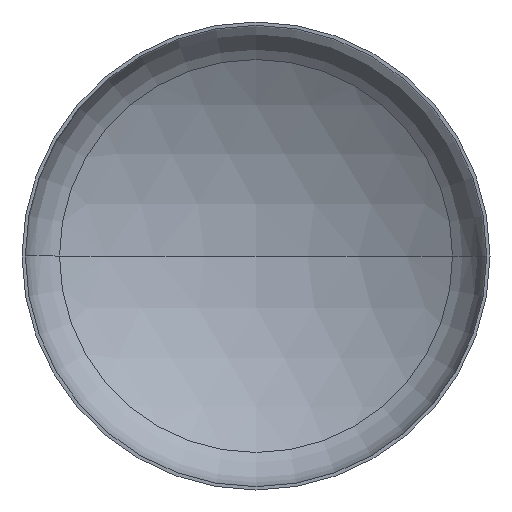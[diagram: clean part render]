
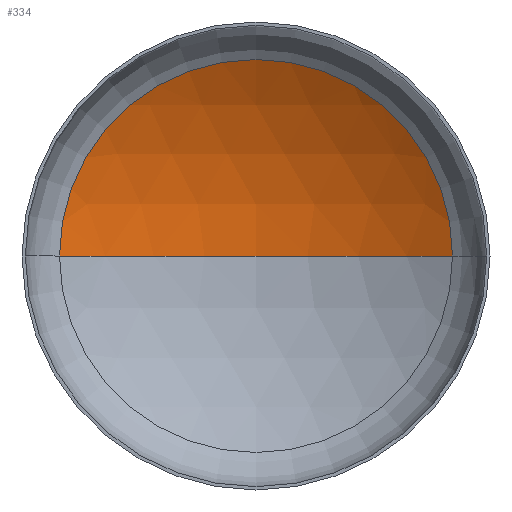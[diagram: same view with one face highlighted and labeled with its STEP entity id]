
A CAD part, front view. The second image highlights one B-rep face of the part: STEP entity #334.
In plain terms, the highlighted spherical face has radius 2240 mm.
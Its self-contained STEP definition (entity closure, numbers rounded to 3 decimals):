
#1 = SPHERICAL_SURFACE ( 'NONE', #173, 2240. ) ;
#15 = EDGE_LOOP ( 'NONE', ( #43, #80, #30 ) ) ;
#28 = VERTEX_POINT ( 'NONE', #267 ) ;
#30 = ORIENTED_EDGE ( 'NONE', *, *, #122, .T. ) ;
#43 = ORIENTED_EDGE ( 'NONE', *, *, #164, .F. ) ;
#46 = AXIS2_PLACEMENT_3D ( 'NONE', #293, #279, #276 ) ;
#63 = VERTEX_POINT ( 'NONE', #202 ) ;
#79 = VERTEX_POINT ( 'NONE', #317 ) ;
#80 = ORIENTED_EDGE ( 'NONE', *, *, #144, .T. ) ;
#86 = AXIS2_PLACEMENT_3D ( 'NONE', #327, #387, #340 ) ;
#109 = CIRCLE ( 'NONE', #86, 1175.691 ) ;
#122 = EDGE_CURVE ( 'NONE', #28, #79, #109, .T. ) ;
#144 = EDGE_CURVE ( 'NONE', #63, #28, #393, .T. ) ;
#152 = CARTESIAN_POINT ( 'NONE',  ( 0., -1480.649, 0. ) ) ;
#156 = DIRECTION ( 'NONE',  ( 0., 0., 1. ) ) ;
#160 = AXIS2_PLACEMENT_3D ( 'NONE', #152, #156, #290 ) ;
#164 = EDGE_CURVE ( 'NONE', #63, #79, #333, .T. ) ;
#173 = AXIS2_PLACEMENT_3D ( 'NONE', #239, #261, #210 ) ;
#202 = CARTESIAN_POINT ( 'NONE',  ( 0., 759.351, 0. ) ) ;
#210 = DIRECTION ( 'NONE',  ( -1., 0., 0. ) ) ;
#239 = CARTESIAN_POINT ( 'NONE',  ( 0., -1480.649, 0. ) ) ;
#261 = DIRECTION ( 'NONE',  ( 0., 0., -1. ) ) ;
#267 = CARTESIAN_POINT ( 'NONE',  ( 1175.691, 426.011, 0. ) ) ;
#276 = DIRECTION ( 'NONE',  ( -1., 0., 0. ) ) ;
#279 = DIRECTION ( 'NONE',  ( 0., 0., -1. ) ) ;
#290 = DIRECTION ( 'NONE',  ( 1., 0., 0. ) ) ;
#293 = CARTESIAN_POINT ( 'NONE',  ( 0., -1480.649, 0. ) ) ;
#317 = CARTESIAN_POINT ( 'NONE',  ( -1175.691, 426.011, 0. ) ) ;
#327 = CARTESIAN_POINT ( 'NONE',  ( 0., 426.011, 0. ) ) ;
#333 = CIRCLE ( 'NONE', #160, 2240. ) ;
#334 = ADVANCED_FACE ( 'NONE', ( #361 ), #1, .F. ) ;
#340 = DIRECTION ( 'NONE',  ( 1., 0., 0. ) ) ;
#361 = FACE_OUTER_BOUND ( 'NONE', #15, .T. ) ;
#387 = DIRECTION ( 'NONE',  ( 0., -1., 0. ) ) ;
#393 = CIRCLE ( 'NONE', #46, 2240. ) ;
